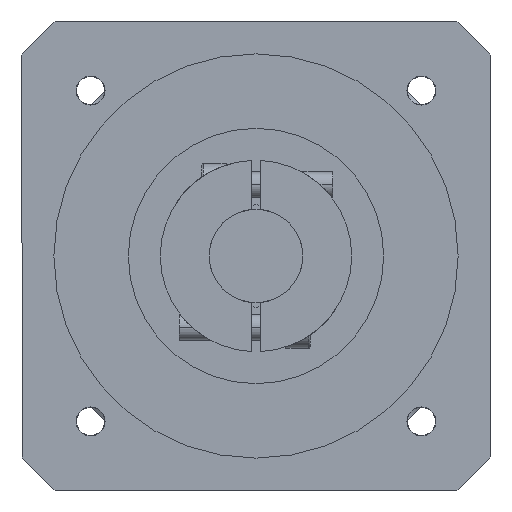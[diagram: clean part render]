
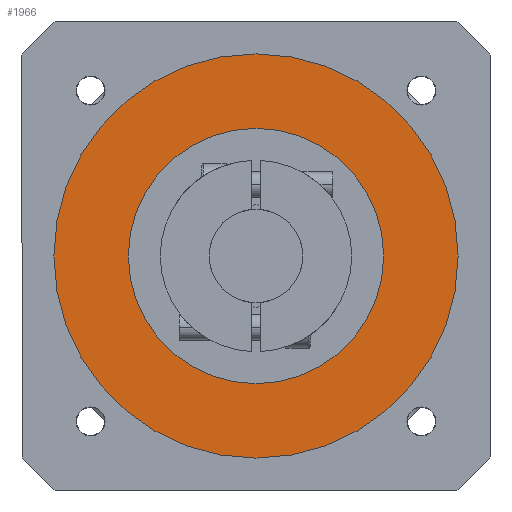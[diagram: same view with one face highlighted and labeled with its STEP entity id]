
A CAD part, front view. The second image highlights one B-rep face of the part: STEP entity #1966.
In plain terms, the highlighted planar face has unit normal (0, -1, 0).
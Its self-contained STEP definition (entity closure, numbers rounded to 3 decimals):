
#479 = AXIS2_PLACEMENT_3D ( 'NONE', #2170, #2591, #1633 ) ;
#492 = ORIENTED_EDGE ( 'NONE', *, *, #5379, .T. ) ;
#784 = CIRCLE ( 'NONE', #2450, 30. ) ;
#790 = VERTEX_POINT ( 'NONE', #4650 ) ;
#1121 = VERTEX_POINT ( 'NONE', #3771 ) ;
#1268 = EDGE_CURVE ( 'NONE', #1121, #790, #1487, .T. ) ;
#1487 = CIRCLE ( 'NONE', #479, 47.5 ) ;
#1544 = CARTESIAN_POINT ( 'NONE',  ( 0., -134., 0. ) ) ;
#1633 = DIRECTION ( 'NONE',  ( 0., 0., -1. ) ) ;
#1636 = AXIS2_PLACEMENT_3D ( 'NONE', #2577, #6070, #3087 ) ;
#1697 = CARTESIAN_POINT ( 'NONE',  ( 0., -134., 0. ) ) ;
#1966 = ADVANCED_FACE ( 'NONE', ( #3485, #4953 ), #4048, .T. ) ;
#2170 = CARTESIAN_POINT ( 'NONE',  ( 0., -134., 0. ) ) ;
#2207 = DIRECTION ( 'NONE',  ( 0., 0., -1. ) ) ;
#2215 = CARTESIAN_POINT ( 'NONE',  ( 0., -134., -30. ) ) ;
#2428 = EDGE_CURVE ( 'NONE', #4060, #2808, #6073, .T. ) ;
#2450 = AXIS2_PLACEMENT_3D ( 'NONE', #2959, #6429, #3456 ) ;
#2577 = CARTESIAN_POINT ( 'NONE',  ( 0., -134., 0. ) ) ;
#2591 = DIRECTION ( 'NONE',  ( 0., -1., 0. ) ) ;
#2808 = VERTEX_POINT ( 'NONE', #2215 ) ;
#2827 = CIRCLE ( 'NONE', #1636, 47.5 ) ;
#2959 = CARTESIAN_POINT ( 'NONE',  ( 0., -134., 0. ) ) ;
#2974 = EDGE_LOOP ( 'NONE', ( #4236, #492 ) ) ;
#3001 = AXIS2_PLACEMENT_3D ( 'NONE', #1544, #6063, #3077 ) ;
#3077 = DIRECTION ( 'NONE',  ( 0., 0., -1. ) ) ;
#3087 = DIRECTION ( 'NONE',  ( 0., 0., -1. ) ) ;
#3246 = CARTESIAN_POINT ( 'NONE',  ( 0., -134., 30. ) ) ;
#3449 = ORIENTED_EDGE ( 'NONE', *, *, #2428, .F. ) ;
#3456 = DIRECTION ( 'NONE',  ( 0., 0., -1. ) ) ;
#3485 = FACE_BOUND ( 'NONE', #4443, .T. ) ;
#3771 = CARTESIAN_POINT ( 'NONE',  ( 0., -134., -47.5 ) ) ;
#4048 = PLANE ( 'NONE',  #3001 ) ;
#4060 = VERTEX_POINT ( 'NONE', #3246 ) ;
#4236 = ORIENTED_EDGE ( 'NONE', *, *, #1268, .T. ) ;
#4443 = EDGE_LOOP ( 'NONE', ( #3449, #6065 ) ) ;
#4650 = CARTESIAN_POINT ( 'NONE',  ( 0., -134., 47.5 ) ) ;
#4862 = AXIS2_PLACEMENT_3D ( 'NONE', #1697, #5186, #2207 ) ;
#4953 = FACE_OUTER_BOUND ( 'NONE', #2974, .T. ) ;
#5186 = DIRECTION ( 'NONE',  ( 0., -1., 0. ) ) ;
#5246 = EDGE_CURVE ( 'NONE', #2808, #4060, #784, .T. ) ;
#5379 = EDGE_CURVE ( 'NONE', #790, #1121, #2827, .T. ) ;
#6063 = DIRECTION ( 'NONE',  ( 0., -1., 0. ) ) ;
#6065 = ORIENTED_EDGE ( 'NONE', *, *, #5246, .F. ) ;
#6070 = DIRECTION ( 'NONE',  ( 0., -1., 0. ) ) ;
#6073 = CIRCLE ( 'NONE', #4862, 30. ) ;
#6429 = DIRECTION ( 'NONE',  ( 0., -1., 0. ) ) ;
